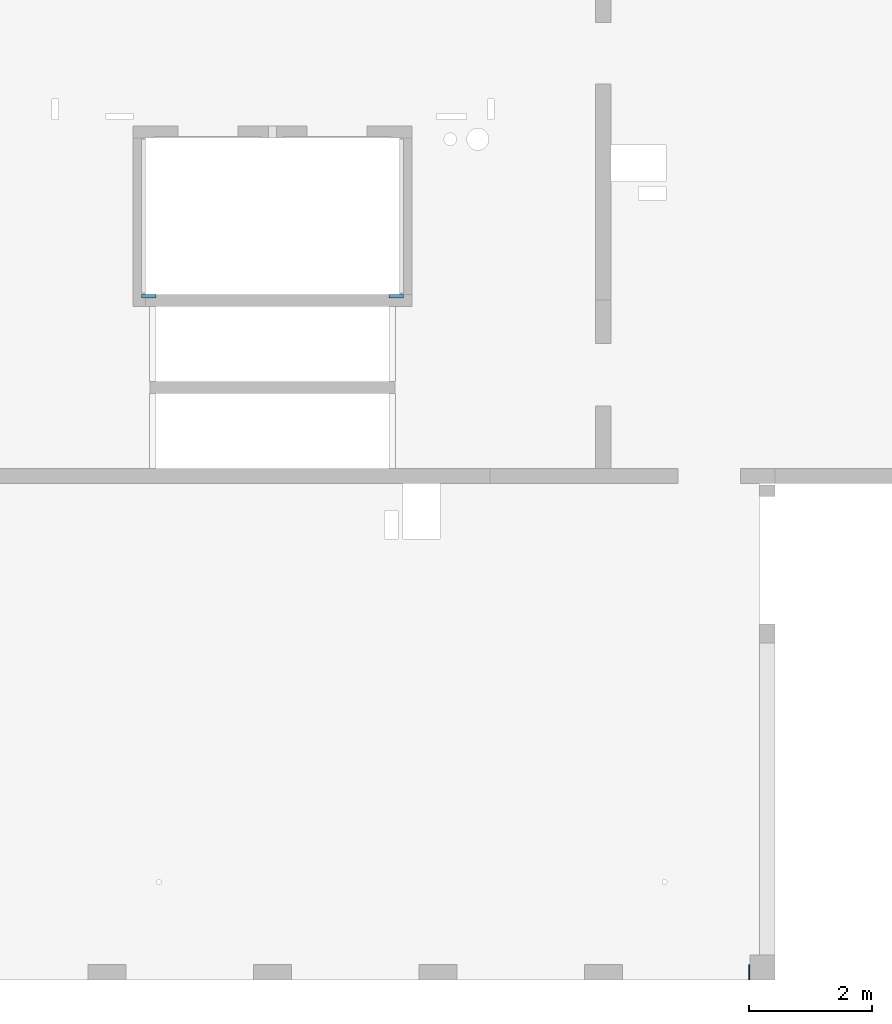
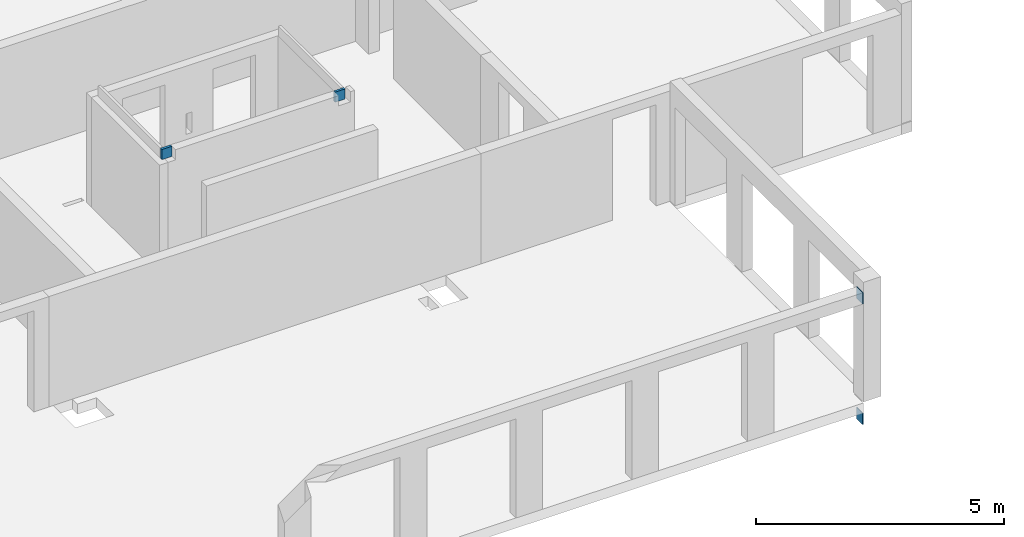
# One storey, part 10 of 13: 4 walls, 2 openings.
"""IFC2X3 building model written with IfcOpenShell, lengths in millimetres."""

from ifc_helpers import new_model, entity, si_unit, converted_unit, derived_unit, direction, frame, frame_2d, origin, place, context, subcontext, project, spatial, rectangle, extrude, material, layer, layer_set, layer_usage, type_object, element, save


model = new_model("IFC2X3")

# Units and contexts
model_context = context("Model", 3, precision=0.01, world=origin(), true_north=direction((6.12303176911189e-17, 1.0)))
body_context = subcontext(model_context, "Body", "Model", "MODEL_VIEW")
ifc_project = project(units=[si_unit("LENGTHUNIT", "METRE", prefix="MILLI"), si_unit("AREAUNIT", "SQUARE_METRE"), si_unit("VOLUMEUNIT", "CUBIC_METRE"), converted_unit("PLANEANGLEUNIT", "DEGREE", entity("IfcRatioMeasure", 0.0174532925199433), si_unit("PLANEANGLEUNIT", "RADIAN"), dimensions=[0, 0, 0, 0, 0, 0, 0]), si_unit("MASSUNIT", "GRAM", prefix="KILO"), derived_unit("MASSDENSITYUNIT", [(si_unit("MASSUNIT", "GRAM", prefix="KILO"), 1), (si_unit("LENGTHUNIT", "METRE"), -3)]), si_unit("TIMEUNIT", "SECOND"), si_unit("FREQUENCYUNIT", "HERTZ"), si_unit("THERMODYNAMICTEMPERATUREUNIT", "DEGREE_CELSIUS"), derived_unit("THERMALTRANSMITTANCEUNIT", [(si_unit("MASSUNIT", "GRAM", prefix="KILO"), 1), (si_unit("THERMODYNAMICTEMPERATUREUNIT", "KELVIN"), -1), (si_unit("TIMEUNIT", "SECOND"), -3)]), derived_unit("VOLUMETRICFLOWRATEUNIT", [(si_unit("LENGTHUNIT", "METRE"), 3), (si_unit("TIMEUNIT", "SECOND"), -1)]), si_unit("ELECTRICCURRENTUNIT", "AMPERE"), si_unit("ELECTRICVOLTAGEUNIT", "VOLT"), si_unit("POWERUNIT", "WATT"), si_unit("FORCEUNIT", "NEWTON", prefix="KILO"), si_unit("ILLUMINANCEUNIT", "LUX"), si_unit("LUMINOUSFLUXUNIT", "LUMEN"), si_unit("LUMINOUSINTENSITYUNIT", "CANDELA"), derived_unit("USERDEFINED", [(si_unit("MASSUNIT", "GRAM", prefix="KILO"), -1), (si_unit("LENGTHUNIT", "METRE"), -2), (si_unit("TIMEUNIT", "SECOND"), 3), (si_unit("LUMINOUSFLUXUNIT", "LUMEN"), 1)]), derived_unit("LINEARVELOCITYUNIT", [(si_unit("LENGTHUNIT", "METRE"), 1), (si_unit("TIMEUNIT", "SECOND"), -1)]), si_unit("PRESSUREUNIT", "PASCAL"), derived_unit("USERDEFINED", [(si_unit("LENGTHUNIT", "METRE"), -2), (si_unit("MASSUNIT", "GRAM", prefix="KILO"), 1), (si_unit("TIMEUNIT", "SECOND"), -2)])], contexts=[model_context])

# Site, building, storey
site_placement = place(None, origin())
site = spatial("IfcSite", under=ifc_project, at=site_placement, Name="Default", CompositionType="ELEMENT")
building_placement = place(site_placement, origin())
building = spatial("IfcBuilding", under=site, at=building_placement, Name="niet gebruiken", CompositionType="ELEMENT")
storey_placement = place(building_placement, frame((0.0, 0.0, 60120.0)))
storey = spatial("IfcBuildingStorey", under=building, at=storey_placement, Name="20 twintigste verdieping", CompositionType="ELEMENT", Elevation=60120.0)

# Wall, opening
ifc_material_1 = material(Name="NLRS_f2_beton ihwg")
ifc_layer_1 = layer(ifc_material_1, 250.0)
ifc_layer_set_1 = layer_set([ifc_layer_1], Name="Basic Wall:NLRS_21.21_WA_beton ihwg d=250_gen")
ifc_layer_usage_1 = layer_usage(ifc_layer_set_1, "AXIS2", "NEGATIVE", 125.0)
wall_type_1 = type_object("IfcWallType", Name="Basic Wall:NLRS_21.21_WA_beton ihwg d=250_gen", PredefinedType="STANDARD", material=ifc_layer_set_1)
wall_1_placement = place(storey_placement, frame((50970.0, 28881.0, 2350.0)))
wall_1 = element("IfcWallStandardCase", 1, at=wall_1_placement, inside=storey, type_object=wall_type_1, material=ifc_layer_usage_1, Name="Basic Wall:NLRS_21.21_WA_beton ihwg d=250_gen", ObjectType="Basic Wall:NLRS_21.21_WA_beton ihwg d=250_gen", context=body_context, shape_type="SweptSolid", body=[
    extrude(rectangle(XDim=19.9999999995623, YDim=250.000000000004, at=frame_2d((9.99999999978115, 1.63424829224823e-13), x_axis=(-1.0, 0.0))), origin(), (0.0, 0.0, 1.0), 280.000000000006),
])
opening_1_placement = place(wall_1_placement, origin())
element("IfcOpeningElement", 2, at=opening_1_placement, cuts=wall_1, Name="Basic Wall:NLRS_21.21_WA_beton ihwg d=250_gen", ObjectType="Opening", context=body_context, shape_type="SweptSolid", body=[
    extrude(rectangle(XDim=2440.0, YDim=2080.0, at=frame_2d((0.0, 0.0), x_axis=(0.0, 1.0))), frame((-1020.0, -1399.0, -1220.0), z_axis=(0.0, 1.0, 0.0), x_axis=(-1.0, 0.0, 0.0)), (0.0, 0.0, 1.0), 3048.0),
])

ifc_layer_usage_2 = layer_usage(ifc_layer_set_1, "AXIS2", "NEGATIVE", 125.0)
wall_2_placement = place(storey_placement, frame((50970.0, 28881.0, -620.0)))
wall_2 = element("IfcWallStandardCase", 3, at=wall_2_placement, inside=storey, type_object=wall_type_1, material=ifc_layer_usage_2, Name="Basic Wall:NLRS_21.21_WA_beton ihwg d=250_gen", ObjectType="Basic Wall:NLRS_21.21_WA_beton ihwg d=250_gen", context=body_context, shape_type="SweptSolid", body=[
    extrude(rectangle(XDim=19.9999999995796, YDim=250.000000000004, at=frame_2d((9.99999999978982, 1.63424829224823e-13), x_axis=(-1.0, 0.0))), origin(), (0.0, 0.0, 1.0), 280.000000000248),
])
opening_2_placement = place(wall_2_placement, origin())
element("IfcOpeningElement", 4, at=opening_2_placement, cuts=wall_2, Name="Basic Wall:NLRS_21.21_WA_beton ihwg d=250_gen", ObjectType="Opening", context=body_context, shape_type="SweptSolid", body=[
    extrude(rectangle(XDim=2440.0, YDim=2080.0, at=frame_2d((0.0, 0.0), x_axis=(0.0, 1.0))), frame((-1020.0, -1399.0, -1220.0), z_axis=(0.0, 1.0, 0.0), x_axis=(-1.0, 0.0, 0.0)), (0.0, 0.0, 1.0), 3048.0),
])

# Walls
ifc_material_2 = material(Name="NLRS_f2_beton prefab")
ifc_layer_2 = layer(ifc_material_2, 60.0)
ifc_layer_set_2 = layer_set([ifc_layer_2], Name="Basic Wall:NLRS_22.21_WA_beton prefab d=60_gen")
ifc_layer_usage_3 = layer_usage(ifc_layer_set_2, "AXIS2", "NEGATIVE", 30.0)
wall_type_2 = type_object("IfcWallType", Name="Basic Wall:NLRS_22.21_WA_beton prefab d=60_gen", PredefinedType="STANDARD", material=ifc_layer_set_2)
wall_3_placement = place(storey_placement, frame((41065.0, 39916.0, 2630.0)))
element("IfcWallStandardCase", 5, at=wall_3_placement, inside=storey, type_object=wall_type_2, material=ifc_layer_usage_3, Name="Basic Wall:NLRS_22.21_WA_beton prefab d=60_gen", ObjectType="Basic Wall:NLRS_22.21_WA_beton prefab d=60_gen", context=body_context, shape_type="SweptSolid", body=[
    extrude(rectangle(XDim=234.999934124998, YDim=60.0000000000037, at=frame_2d((117.499967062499, -4.12292422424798e-12), x_axis=(-1.0, 0.0))), origin(), (0.0, 0.0, 1.0), 250.000000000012),
])
ifc_layer_usage_4 = layer_usage(ifc_layer_set_2, "AXIS2", "POSITIVE", -30.0)
wall_4_placement = place(storey_placement, frame((45335.0, 39916.0, 2630.0), z_axis=(0.0, 0.0, 1.0), x_axis=(-1.0, 0.0, 0.0)))
element("IfcWallStandardCase", 6, at=wall_4_placement, inside=storey, type_object=wall_type_2, material=ifc_layer_usage_4, Name="Basic Wall:NLRS_22.21_WA_beton prefab d=60_gen", ObjectType="Basic Wall:NLRS_22.21_WA_beton prefab d=60_gen", context=body_context, shape_type="SweptSolid", body=[
    extrude(rectangle(XDim=234.999967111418, YDim=60.0000000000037, at=frame_2d((117.499983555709, 4.12114786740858e-12), x_axis=(-1.0, 0.0))), origin(), (0.0, 0.0, 1.0), 250.000000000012),
])

save(model, "model.ifc")
